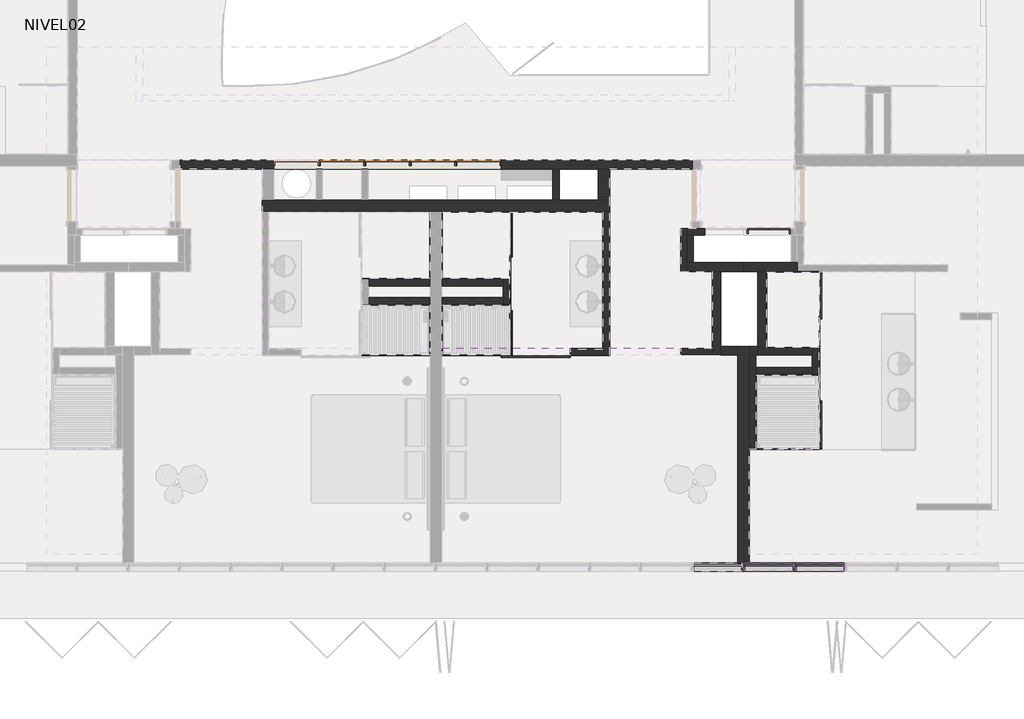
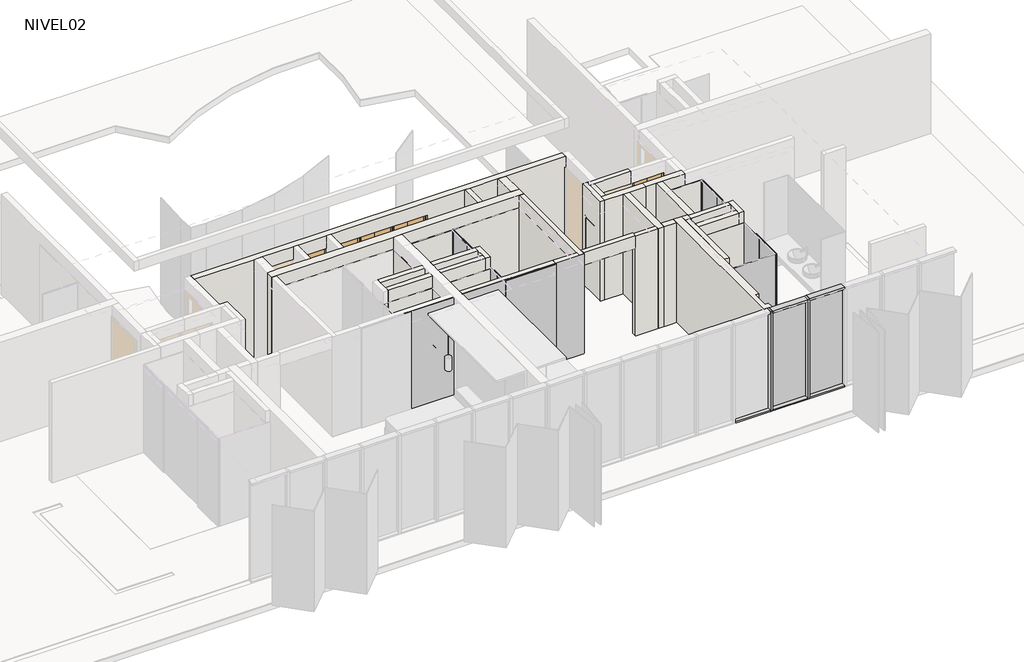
# One storey, part 3 of 9: 44 walls, 13 plates, 7 members, 5 doors.
"""IFC4 building model written with IfcOpenShell, lengths in millimetres."""

from ifc_helpers import new_model, si_unit, frame, origin, place, context, project, spatial, polyline, outline, extrude, faceted_brep, transform, mapped, element, save
from components import puerta_closet_shaft_75_x_232cm_f7ce9964, puerta_closet_shaft_80_x_232cm_003f94e8, rectangular_mullion_50_x_150mm_324a6438, rectangular_mullion_50_x_150mm_33c2bde1, panel_corredera_cr_panel_corredera_e3ae9a5b, panel_corredera_cr_panel_corredera_0bc1c699, panel_corredera_cr_panel_corredera_42e60b83, panel_corredera_cr_panel_corredera_7198288a, panel_corredera_cr_panel_corredera_8db39db7, system_panel_cr_shower_b944c943, system_panel_cr_shower_d400fda2, system_panel_cr_shower_ad642826, system_panel_cr_shower_33531463, system_panel_cr_shower_685ec66b, system_panel_cr_shower_d0c7b907, system_panel_glazed_6ccc6dc1

model = new_model("IFC4")

# Units and contexts
model_context = context("Model", 3, world=origin())
ifc_project = project(units=[si_unit("LENGTHUNIT", "METRE", prefix="MILLI")], contexts=[model_context])

# Site, building, storey
site = spatial("IfcSite", under=ifc_project)
building = spatial("IfcBuilding", under=site)
storey = spatial("IfcBuildingStorey", under=building, Name="NIVEL02", Elevation=2500.0)

# Doors
placement = place(None, origin())
puerta_closet_shaft_75_x_232cm_shape = puerta_closet_shaft_75_x_232cm_f7ce9964(model_context)
element("IfcDoor", 1, ObjectType="PUERTA CLOSET SHAFT : 75 x 232cm", at=placement, inside=storey, context=model_context, shape_type="MappedRepresentation", body=[
    mapped(puerta_closet_shaft_75_x_232cm_shape, transform((-2480.1250457, -1521.0860759, 2500.0), x_axis=(-1.0, 0.0, 0.0), y_axis=(0.0, -1.0, 0.0), z_axis=(0.0, 0.0, 1.0))),
])
puerta_closet_shaft_80_x_232cm_shape = puerta_closet_shaft_80_x_232cm_003f94e8(model_context)
element("IfcDoor", 2, ObjectType="PUERTA CLOSET SHAFT : 80 x 232cm", at=placement, inside=storey, context=model_context, shape_type="MappedRepresentation", body=[
    mapped(puerta_closet_shaft_80_x_232cm_shape, transform((-6892.061904, -341.0860759, 2500.0), x_axis=(1.0, 0.0, 0.0), y_axis=(0.0, 1.0, 0.0), z_axis=(0.0, 0.0, 1.0))),
])
element("IfcDoor", 3, ObjectType="PUERTA CLOSET SHAFT : 80 x 232cm", at=placement, inside=storey, context=model_context, shape_type="MappedRepresentation", body=[
    mapped(puerta_closet_shaft_80_x_232cm_shape, transform((-7692.061904, -341.0860759, 2500.0), x_axis=(1.0, 0.0, 0.0), y_axis=(0.0, 1.0, 0.0), z_axis=(0.0, 0.0, 1.0))),
])
element("IfcDoor", 4, ObjectType="PUERTA CLOSET SHAFT : 80 x 232cm", at=placement, inside=storey, context=model_context, shape_type="MappedRepresentation", body=[
    mapped(puerta_closet_shaft_80_x_232cm_shape, transform((-6092.061904, -341.0860759, 2500.0), x_axis=(1.0, 0.0, 0.0), y_axis=(0.0, 1.0, 0.0), z_axis=(0.0, 0.0, 1.0))),
])
element("IfcDoor", 5, ObjectType="PUERTA CLOSET SHAFT : 80 x 232cm", at=placement, inside=storey, context=model_context, shape_type="MappedRepresentation", body=[
    mapped(puerta_closet_shaft_80_x_232cm_shape, transform((-5292.061904, -341.0860759, 2500.0), x_axis=(1.0, 0.0, 0.0), y_axis=(0.0, 1.0, 0.0), z_axis=(0.0, 0.0, 1.0))),
])

# Members
rectangular_mullion_50_x_150mm_shape = rectangular_mullion_50_x_150mm_324a6438(model_context)
element("IfcMember", 6, ObjectType="Rectangular Mullion : 50 x 150mm", at=placement, inside=storey, context=model_context, shape_type="MappedRepresentation", body=[
    mapped(rectangular_mullion_50_x_150mm_shape, transform((-858.5934748, -7416.0860759, 5050.0), x_axis=(0.0, 0.0, 1.0), y_axis=(0.0, 1.0, 0.0), z_axis=(-1.0, 0.0, 0.0))),
])
element("IfcMember", 7, ObjectType="Rectangular Mullion : 50 x 150mm", at=placement, inside=storey, context=model_context, shape_type="MappedRepresentation", body=[
    mapped(rectangular_mullion_50_x_150mm_shape, transform((-1758.5934748, -7416.0860759, 5050.0), x_axis=(0.0, 0.0, 1.0), y_axis=(0.0, 1.0, 0.0), z_axis=(-1.0, 0.0, 0.0))),
])
element("IfcMember", 8, ObjectType="Rectangular Mullion : 50 x 150mm", at=placement, inside=storey, context=model_context, shape_type="MappedRepresentation", body=[
    mapped(rectangular_mullion_50_x_150mm_shape, transform((-8.5934748, -7416.0860759, 2480.0), x_axis=(0.0, 0.0, -1.0), y_axis=(0.0, 1.0, 0.0), z_axis=(1.0, 0.0, 0.0))),
])
element("IfcMember", 9, ObjectType="Rectangular Mullion : 50 x 150mm", at=placement, inside=storey, context=model_context, shape_type="MappedRepresentation", body=[
    mapped(rectangular_mullion_50_x_150mm_shape, transform((-908.5934748, -7416.0860759, 2480.0), x_axis=(0.0, 0.0, -1.0), y_axis=(0.0, 1.0, 0.0), z_axis=(1.0, 0.0, 0.0))),
])
element("IfcMember", 10, ObjectType="Rectangular Mullion : 50 x 150mm", at=placement, inside=storey, context=model_context, shape_type="MappedRepresentation", body=[
    mapped(rectangular_mullion_50_x_150mm_shape, transform((-1808.5934748, -7416.0860759, 2480.0), x_axis=(0.0, 0.0, -1.0), y_axis=(0.0, 1.0, 0.0), z_axis=(1.0, 0.0, 0.0))),
])
rectangular_mullion_50_x_150mm_2_shape = rectangular_mullion_50_x_150mm_33c2bde1(model_context)
element("IfcMember", 11, ObjectType="Rectangular Mullion : 50 x 150mm", at=placement, inside=storey, context=model_context, shape_type="MappedRepresentation", body=[
    mapped(rectangular_mullion_50_x_150mm_2_shape, transform((-883.5934748, -7416.0860759, 2480.0), x_axis=(-1.0, 0.0, 0.0), y_axis=(0.0, 1.0, 0.0), z_axis=(0.0, 0.0, -1.0))),
])
element("IfcMember", 12, ObjectType="Rectangular Mullion : 50 x 150mm", at=placement, inside=storey, context=model_context, shape_type="MappedRepresentation", body=[
    mapped(rectangular_mullion_50_x_150mm_2_shape, transform((-1783.5934748, -7416.0860759, 2480.0), x_axis=(-1.0, 0.0, 0.0), y_axis=(0.0, 1.0, 0.0), z_axis=(0.0, 0.0, -1.0))),
])

# Plates
panel_corredera_cr_panel_corredera_shape = panel_corredera_cr_panel_corredera_e3ae9a5b(model_context)
element("IfcPlate", 13, ObjectType="PANEL CORREDERA : CR_PANEL CORREDERA", at=placement, inside=storey, context=model_context, shape_type="MappedRepresentation", body=[
    mapped(panel_corredera_cr_panel_corredera_shape, transform((-453.5434748, -2560.8259695, 2500.0), x_axis=(0.0, -1.0, 0.0), y_axis=(1.0, 0.0, 0.0), z_axis=(0.0, 0.0, 1.0))),
])
panel_corredera_cr_panel_corredera_2_shape = panel_corredera_cr_panel_corredera_0bc1c699(model_context)
element("IfcPlate", 14, ObjectType="PANEL CORREDERA : CR_PANEL CORREDERA", at=placement, inside=storey, context=model_context, shape_type="MappedRepresentation", body=[
    mapped(panel_corredera_cr_panel_corredera_2_shape, transform((-5883.5921504, -3371.0862189, 2500.0), x_axis=(0.0, 1.0, 0.0), y_axis=(-1.0, 0.0, 0.0), z_axis=(0.0, 0.0, 1.0))),
])
panel_corredera_cr_panel_corredera_3_shape = panel_corredera_cr_panel_corredera_42e60b83(model_context)
element("IfcPlate", 15, ObjectType="PANEL CORREDERA : CR_PANEL CORREDERA", at=placement, inside=storey, context=model_context, shape_type="MappedRepresentation", body=[
    mapped(panel_corredera_cr_panel_corredera_3_shape, transform((-453.5434748, -4991.5697221, 2500.0), x_axis=(0.0, 1.0, 0.0), y_axis=(-1.0, 0.0, 0.0), z_axis=(0.0, 0.0, 1.0))),
])
panel_corredera_cr_panel_corredera_4_shape = panel_corredera_cr_panel_corredera_7198288a(model_context)
element("IfcPlate", 16, ObjectType="PANEL CORREDERA : CR_PANEL CORREDERA", at=placement, inside=storey, context=model_context, shape_type="MappedRepresentation", body=[
    mapped(panel_corredera_cr_panel_corredera_4_shape, transform((-5883.5921504, -1491.0860759, 2500.0), x_axis=(0.0, -1.0, 0.0), y_axis=(1.0, 0.0, 0.0), z_axis=(0.0, 0.0, 1.0))),
])
panel_corredera_cr_panel_corredera_5_shape = panel_corredera_cr_panel_corredera_8db39db7(model_context)
element("IfcPlate", 17, ObjectType="PANEL CORREDERA : CR_PANEL CORREDERA", at=placement, inside=storey, context=model_context, shape_type="MappedRepresentation", body=[
    mapped(panel_corredera_cr_panel_corredera_5_shape, transform((-5353.5934748, -3686.0862189, 2500.0), x_axis=(-1.0, 0.0, 0.0), y_axis=(0.0, -1.0, 0.0), z_axis=(0.0, 0.0, 1.0))),
])
system_panel_cr_shower_shape = system_panel_cr_shower_b944c943(model_context)
element("IfcPlate", 18, ObjectType="System Panel : CR-SHOWER", at=placement, inside=storey, context=model_context, shape_type="MappedRepresentation", body=[
    mapped(system_panel_cr_shower_shape, transform((-1068.5684748, -5336.1362189, 2500.0), x_axis=(1.0, 0.0, 0.0), y_axis=(0.0, 1.0, 0.0), z_axis=(0.0, 0.0, 1.0))),
])
system_panel_cr_shower_2_shape = system_panel_cr_shower_d400fda2(model_context)
element("IfcPlate", 19, ObjectType="System Panel : CR-SHOWER", at=placement, inside=storey, context=model_context, shape_type="MappedRepresentation", body=[
    mapped(system_panel_cr_shower_2_shape, transform((-4478.5934748, -3686.0862189, 2500.0), x_axis=(1.0, 0.0, 0.0), y_axis=(0.0, 1.0, 0.0), z_axis=(0.0, 0.0, 1.0))),
])
system_panel_cr_shower_3_shape = system_panel_cr_shower_ad642826(model_context)
element("IfcPlate", 20, ObjectType="System Panel : CR-SHOWER", at=placement, inside=storey, context=model_context, shape_type="MappedRepresentation", body=[
    mapped(system_panel_cr_shower_3_shape, transform((-453.5434748, -3776.2845441, 2500.0), x_axis=(0.0, 1.0, 0.0), y_axis=(-1.0, 0.0, 0.0), z_axis=(0.0, 0.0, 1.0))),
])
system_panel_cr_shower_4_shape = system_panel_cr_shower_33531463(model_context)
element("IfcPlate", 21, ObjectType="System Panel : CR-SHOWER", at=placement, inside=storey, context=model_context, shape_type="MappedRepresentation", body=[
    mapped(system_panel_cr_shower_4_shape, transform((-5883.5921504, -2436.0861474, 2500.0), x_axis=(0.0, 1.0, 0.0), y_axis=(-1.0, 0.0, 0.0), z_axis=(0.0, 0.0, 1.0))),
])
system_panel_cr_shower_5_shape = system_panel_cr_shower_685ec66b(model_context)
element("IfcPlate", 22, ObjectType="System Panel : CR-SHOWER", at=placement, inside=storey, context=model_context, shape_type="MappedRepresentation", body=[
    mapped(system_panel_cr_shower_5_shape, transform((-6483.5934748, -3686.0862189, 2500.0), x_axis=(1.0, 0.0, 0.0), y_axis=(0.0, 1.0, 0.0), z_axis=(0.0, 0.0, 1.0))),
])
system_panel_cr_shower_6_shape = system_panel_cr_shower_d0c7b907(model_context)
element("IfcPlate", 23, ObjectType="System Panel : CR-SHOWER", at=placement, inside=storey, context=model_context, shape_type="MappedRepresentation", body=[
    mapped(system_panel_cr_shower_6_shape, transform((-7883.5934748, -3686.0862189, 2500.0), x_axis=(-1.0, 0.0, 0.0), y_axis=(0.0, -1.0, 0.0), z_axis=(0.0, 0.0, 1.0))),
])
system_panel_glazed_shape = system_panel_glazed_6ccc6dc1(model_context)
element("IfcPlate", 24, ObjectType="System Panel : Glazed", at=placement, inside=storey, context=model_context, shape_type="MappedRepresentation", body=[
    mapped(system_panel_glazed_shape, transform((-433.5934748, -7416.0860759, 2530.0), x_axis=(-1.0, 0.0, 0.0), y_axis=(0.0, -1.0, 0.0), z_axis=(0.0, 0.0, 1.0))),
])
element("IfcPlate", 25, ObjectType="System Panel : Glazed", at=placement, inside=storey, context=model_context, shape_type="MappedRepresentation", body=[
    mapped(system_panel_glazed_shape, transform((-1333.5934748, -7416.0860759, 2530.0), x_axis=(-1.0, 0.0, 0.0), y_axis=(0.0, -1.0, 0.0), z_axis=(0.0, 0.0, 1.0))),
])

# Walls
element("IfcWall", 26, ObjectType="SCV.TI.A.110.090.143.47.1", at=placement, inside=storey, context=model_context, shape_type="SweptSolid", body=[
    extrude(outline(polyline([(-2333.5934748, -3681.0862189), (-2883.5934748, -3681.0862189), (-2883.5934748, -3571.0862189), (-2333.5934748, -3571.0862189), (-2333.5934748, -3681.0862189)])), frame((0.0, 0.0, 2500.0), z_axis=(0.0, 0.0, 1.0), x_axis=(1.0, 0.0, 0.0)), (0.0, 0.0, 1.0), 2550.0),
])
element("IfcWall", 27, ObjectType="SCV.TI.A.110.090.143.47.1", at=placement, inside=storey, context=model_context, shape_type="Brep", body=[
    faceted_brep([(-1778.029983, -1576.0860759, 5050.0), (-2663.5934748, -1576.0860759, 5050.0), (-2773.5934748, -1576.0860759, 5050.0), (-2773.5934748, -1576.0860759, 2500.0), (-2463.5934748, -1576.0860759, 2500.0), (-2463.5934748, -1576.0860759, 4740.0), (-1778.029983, -1576.0860759, 4740.0), (-2773.5934748, -1466.0860759, 5050.0), (-2683.5934748, -1466.0860759, 5050.0), (-2533.5934748, -1466.0860759, 5050.0), (-1778.029983, -1466.0860759, 5050.0), (-1778.029983, -1466.0860759, 4740.0), (-2463.5934748, -1466.0860759, 4740.0), (-2463.5934748, -1466.0860759, 2500.0), (-2533.5934748, -1466.0860759, 2500.0), (-2683.5934748, -1466.0860759, 2500.0), (-2773.5934748, -1466.0860759, 2500.0)], [[[0, 1, 2, 3, 4, 5, 6]], [[7, 8, 9, 10, 11, 12, 13, 14, 15, 16]], [[3, 16, 15, 14, 13, 4]], [[10, 0, 6, 11]], [[2, 1, 0, 10, 9, 8, 7]], [[5, 12, 11, 6]], [[12, 5, 4, 13]], [[3, 2, 7, 16]]]),
])
element("IfcWall", 28, ObjectType="SCV.TI.A.110.090.143.47.1", at=placement, inside=storey, context=model_context, shape_type="Brep", body=[
    faceted_brep([(-4243.5934748, -1166.0860759, 2480.0), (-4243.5934748, -3686.0862189, 2480.0), (-4243.5934748, -3686.0862189, 2500.0), (-4243.5934748, -3686.0862189, 5050.0), (-4243.5934748, -3576.0862189, 5050.0), (-4243.5934748, -1166.0860759, 5050.0), (-4133.5934748, -1166.0860759, 2480.0), (-4133.5934748, -1166.0860759, 5050.0), (-4133.5934748, -3686.0862189, 5050.0), (-4133.5934748, -3686.0862189, 4750.0), (-4133.5934748, -3686.0862189, 2480.0)], [[[0, 1, 2, 3, 4, 5]], [[6, 7, 8, 9, 10]], [[1, 0, 6, 10]], [[5, 4, 3, 8, 7]], [[1, 10, 9, 8, 3, 2]], [[0, 5, 7, 6]]]),
])
element("IfcWall", 29, ObjectType="SCV.TI.A.150.120.212.47.1", at=placement, inside=storey, context=model_context, shape_type="Brep", body=[
    faceted_brep([(-11683.5934748, -416.0860759, 2480.0), (-10233.5934748, -416.0860759, 2480.0), (-10033.5934748, -416.0860759, 2480.0), (-9283.5934748, -416.0860759, 2480.0), (-9173.5934748, -416.0860759, 2480.0), (-8483.5934748, -416.0860759, 2480.0), (-8373.5934748, -416.0860759, 2480.0), (-5133.5934748, -416.0860759, 2480.0), (-5013.5934748, -416.0860759, 2480.0), (-4333.5934748, -416.0860759, 2480.0), (-4133.5934748, -416.0860759, 2480.0), (-2683.5934748, -416.0860759, 2480.0), (-2683.5934748, -416.0860759, 5050.0), (-4133.5934748, -416.0860759, 5050.0), (-4333.5934748, -416.0860759, 5050.0), (-5013.5934748, -416.0860759, 5050.0), (-5133.5934748, -416.0860759, 5050.0), (-8373.5934748, -416.0860759, 5050.0), (-8483.5934748, -416.0860759, 5050.0), (-9173.5934748, -416.0860759, 5050.0), (-9283.5934748, -416.0860759, 5050.0), (-10033.5934748, -416.0860759, 5050.0), (-10233.5934748, -416.0860759, 5050.0), (-11683.5934748, -416.0860759, 5050.0), (-10033.5934748, -416.0860759, 4720.0), (-6033.5934748, -416.0860759, 4720.0), (-6033.5934748, -416.0860759, 2500.0), (-10033.5934748, -416.0860759, 2500.0), (-2683.5934748, -266.0860759, 2480.0), (-11683.5934748, -266.0860759, 2480.0), (-11683.5934748, -266.0860759, 2500.0), (-11683.5934748, -266.0860759, 5050.0), (-2683.5934748, -266.0860759, 5050.0), (-2683.5934748, -266.0860759, 2500.0), (-6033.5934748, -266.0860759, 4720.0), (-10033.5934748, -266.0860759, 4720.0), (-10033.5934748, -266.0860759, 2500.0), (-6033.5934748, -266.0860759, 2500.0)], [[[0, 1, 2, 3, 4, 5, 6, 7, 8, 9, 10, 11, 12, 13, 14, 15, 16, 17, 18, 19, 20, 21, 22, 23], [24, 25, 26, 27]], [[28, 29, 30, 31, 32, 33], [34, 35, 36, 37]], [[11, 10, 9, 8, 7, 6, 5, 4, 3, 2, 1, 0, 29, 28]], [[23, 22, 21, 20, 19, 18, 17, 16, 15, 14, 13, 12, 32, 31]], [[24, 35, 34, 25]], [[26, 37, 36, 27]], [[27, 36, 35, 24]], [[37, 26, 25, 34]], [[0, 23, 31, 30, 29]], [[12, 11, 28, 33, 32]]]),
])
element("IfcWall", 30, ObjectType="SCV.TI.A.150.120.212.47.1", at=placement, inside=storey, context=model_context, shape_type="Brep", body=[
    faceted_brep([(-2773.5934748, -2216.0860759, 2500.0), (-2333.5934748, -2216.0860759, 2500.0), (-2183.5934748, -2216.0860759, 2500.0), (-1783.5934748, -2216.0860759, 2500.0), (-1783.5934748, -2216.0860759, 5050.0), (-2183.5934748, -2216.0860759, 5050.0), (-2333.5934748, -2216.0860759, 5050.0), (-2773.5934748, -2216.0860759, 5050.0), (-2773.5934748, -2066.0860759, 2500.0), (-2773.5934748, -2066.0860759, 5050.0), (-2663.5934748, -2066.0860759, 5050.0), (-1783.5934748, -2066.0860759, 5050.0), (-1783.5934748, -2066.0860759, 2500.0)], [[[0, 1, 2, 3, 4, 5, 6, 7]], [[8, 9, 10, 11, 12]], [[3, 2, 1, 0, 8, 12]], [[4, 3, 12, 11]], [[7, 6, 5, 4, 11, 10, 9]], [[0, 7, 9, 8]]]),
])
element("IfcWall", 31, ObjectType="SCV.TI.A.110.090.143.47.1", at=placement, inside=storey, context=model_context, shape_type="Brep", body=[
    faceted_brep([(-2883.5934748, -1466.0860759, 2480.0), (-2883.5934748, -2216.0860759, 2480.0), (-2883.5934748, -2216.0860759, 5050.0), (-2883.5934748, -1466.0860759, 5050.0), (-2773.5934748, -1466.0860759, 2480.0), (-2773.5934748, -1466.0860759, 2500.0), (-2773.5934748, -1466.0860759, 5050.0), (-2773.5934748, -1576.0860759, 5050.0), (-2773.5934748, -2066.0860759, 5050.0), (-2773.5934748, -2216.0860759, 5050.0), (-2773.5934748, -2216.0860759, 2500.0), (-2773.5934748, -2216.0860759, 2480.0)], [[[0, 1, 2, 3]], [[4, 5, 6, 7, 8, 9, 10, 11]], [[1, 0, 4, 11]], [[3, 2, 9, 8, 7, 6]], [[2, 1, 11, 10, 9]], [[0, 3, 6, 5, 4]]]),
])
element("IfcWall", 32, ObjectType="SCV.TI.A.120.120.122.46.2", at=placement, inside=storey, context=model_context, shape_type="SweptSolid", body=[
    extrude(outline(polyline([(-6003.6822103, -2796.0860759), (-7083.5934748, -2796.0860759), (-7083.5934748, -2676.0860759), (-6003.6822103, -2676.0860759), (-6003.6822103, -2796.0860759)])), frame((0.0, 0.0, 2500.0), z_axis=(0.0, 0.0, 1.0), x_axis=(1.0, 0.0, 0.0)), (0.0, 0.0, 1.0), 2550.0),
])
element("IfcWall", 33, ObjectType="SCV.TI.A.120.120.122.46.2", at=placement, inside=storey, context=model_context, shape_type="Brep", body=[
    faceted_brep([(-5883.6822103, -2796.0860759, 2500.0), (-5883.6822103, -2356.0860759, 2500.0), (-5883.6822103, -2356.0860759, 5050.0), (-5883.6822103, -2796.0860759, 5050.0), (-6003.6822103, -2796.0860759, 2500.0), (-6003.6822103, -2796.0860759, 5050.0), (-6003.6822103, -2676.0860759, 5050.0), (-6003.6822103, -2476.0860759, 5050.0), (-6003.6822103, -2356.0860759, 5050.0), (-6003.6822103, -2356.0860759, 2500.0), (-6003.6822103, -2476.0860759, 2500.0), (-6003.6822103, -2676.0860759, 2500.0)], [[[0, 1, 2, 3]], [[4, 5, 6, 7, 8, 9, 10, 11]], [[1, 0, 4, 11, 10, 9]], [[3, 2, 8, 7, 6, 5]], [[2, 1, 9, 8]], [[0, 3, 5, 4]]]),
])
element("IfcWall", 34, ObjectType="SCV.TI.A.120.120.122.46.2", at=placement, inside=storey, context=model_context, shape_type="SweptSolid", body=[
    extrude(outline(polyline([(-7083.5934748, -2356.0860759), (-6003.6822103, -2356.0860759), (-6003.6822103, -2476.0860759), (-7083.5934748, -2476.0860759), (-7083.5934748, -2356.0860759)])), frame((0.0, 0.0, 2500.0), z_axis=(0.0, 0.0, 1.0), x_axis=(1.0, 0.0, 0.0)), (0.0, 0.0, 1.0), 2550.0),
])
element("IfcWall", 35, ObjectType="SCV.TI.A.120.120.122.46.2", at=placement, inside=storey, context=model_context, shape_type="SweptSolid", body=[
    extrude(outline(polyline([(-573.5934748, -4026.0862189), (-1563.5934748, -4026.0862189), (-1563.5934748, -3906.0862189), (-573.5934748, -3906.0862189), (-573.5934748, -4026.0862189)])), frame((0.0, 0.0, 2480.0), z_axis=(0.0, 0.0, 1.0), x_axis=(1.0, 0.0, 0.0)), (0.0, 0.0, 1.0), 2570.0),
])
element("IfcWall", 36, ObjectType="SCV.TI.A.120.120.122.46.2", at=placement, inside=storey, context=model_context, shape_type="Brep", body=[
    faceted_brep([(-453.5934748, -4026.0862189, 2480.0), (-453.5934748, -3566.0862189, 2480.0), (-453.5934748, -3566.0862189, 5050.0), (-453.5934748, -4026.0862189, 5050.0), (-573.5934748, -4026.0862189, 2480.0), (-573.5934748, -4026.0862189, 5050.0), (-573.5934748, -3906.0862189, 5050.0), (-573.5934748, -3686.0862189, 5050.0), (-573.5934748, -3566.0862189, 5050.0), (-573.5934748, -3566.0862189, 2480.0), (-573.5934748, -3686.0862189, 2480.0), (-573.5934748, -3906.0862189, 2480.0)], [[[0, 1, 2, 3]], [[4, 5, 6, 7, 8, 9, 10, 11]], [[1, 0, 4, 11, 10, 9]], [[3, 2, 8, 7, 6, 5]], [[2, 1, 9, 8]], [[0, 3, 5, 4]]]),
])
element("IfcWall", 37, ObjectType="SCV.TI.A.120.120.122.46.2", at=placement, inside=storey, context=model_context, shape_type="Brep", body=[
    faceted_brep([(-573.5934748, -3566.0862189, 2480.0), (-1383.5934748, -3566.0862189, 2480.0), (-1533.5934748, -3566.0862189, 2480.0), (-1533.5934748, -3566.0862189, 5050.0), (-1383.5934748, -3566.0862189, 5050.0), (-573.5934748, -3566.0862189, 5050.0), (-573.5934748, -3686.0862189, 2480.0), (-573.5934748, -3686.0862189, 5050.0), (-1533.5934748, -3686.0862189, 5050.0), (-1533.5934748, -3686.0862189, 2480.0)], [[[0, 1, 2, 3, 4, 5]], [[6, 7, 8, 9]], [[2, 1, 0, 6, 9]], [[5, 4, 3, 8, 7]], [[0, 5, 7, 6]], [[3, 2, 9, 8]]]),
])
element("IfcWall", 38, ObjectType="SCV.TI.A.150.120.212.47.1", at=placement, inside=storey, context=model_context, shape_type="Brep", body=[
    faceted_brep([(-833.5934748, -2066.0860759, 2480.0), (-943.5934748, -2066.0860759, 2480.0), (-1783.5934748, -2066.0860759, 2480.0), (-1783.5934748, -2066.0860759, 5050.0), (-943.5934748, -2066.0860759, 5050.0), (-833.5934748, -2066.0860759, 5050.0), (-833.5934748, -2216.0860759, 2480.0), (-833.5934748, -2216.0860759, 5050.0), (-1383.5934748, -2216.0860759, 5050.0), (-1533.5934748, -2216.0860759, 5050.0), (-1783.5934748, -2216.0860759, 5050.0), (-1783.5934748, -2216.0860759, 2480.0), (-1533.5934748, -2216.0860759, 2480.0), (-1383.5934748, -2216.0860759, 2480.0), (-833.5934748, -2106.0860759, 2480.0), (-833.5934748, -2106.0860759, 5050.0)], [[[0, 1, 2, 3, 4, 5]], [[6, 7, 8, 9, 10, 11, 12, 13]], [[2, 1, 0, 14, 6, 13, 12, 11]], [[3, 2, 11, 10]], [[5, 4, 3, 10, 9, 8, 7, 15]], [[0, 5, 15, 7, 6, 14]]]),
])
element("IfcWall", 39, ObjectType="SCV.TI.A.110.090.143.47.1", at=placement, inside=storey, context=model_context, shape_type="Brep", body=[
    faceted_brep([(-4823.5934748, -3686.0862189, 2500.0), (-4243.5934748, -3686.0862189, 2500.0), (-4243.5934748, -3686.0862189, 5050.0), (-4823.5934748, -3686.0862189, 5050.0), (-4823.5934748, -3686.0862189, 4805.0), (-4823.5934748, -3576.0862189, 2500.0), (-4823.5934748, -3576.0862189, 5050.0), (-4243.5934748, -3576.0862189, 5050.0), (-4243.5934748, -3576.0862189, 2500.0)], [[[0, 1, 2, 3, 4]], [[5, 6, 7, 8]], [[1, 0, 5, 8]], [[3, 2, 7, 6]], [[0, 4, 3, 6, 5]], [[1, 8, 7, 2]]]),
])
element("IfcWall", 40, ObjectType="REV-PORCELANATO_60*60", at=placement, inside=storey, context=model_context, shape_type="Brep", body=[
    faceted_brep([(-4823.5934748, -3596.0862189, 2500.0), (-4243.5934748, -3596.0862189, 2500.0), (-4243.5934748, -3596.0862189, 4740.0), (-4823.5934748, -3596.0862189, 4740.0), (-4823.5934748, -3586.0862189, 2500.0), (-4823.5934748, -3586.0862189, 4740.0), (-4253.5934748, -3586.0862189, 4740.0), (-4243.5934748, -3586.0862189, 4740.0), (-4243.5934748, -3586.0862189, 2500.0), (-4253.5934748, -3586.0862189, 2500.0)], [[[0, 1, 2, 3]], [[4, 5, 6, 7, 8, 9]], [[1, 0, 4, 9, 8]], [[3, 2, 7, 6, 5]], [[0, 3, 5, 4]], [[2, 1, 8, 7]]]),
])
element("IfcWall", 41, ObjectType="REV-PORCELANATO_60*60", at=placement, inside=storey, context=model_context, shape_type="Brep", body=[
    faceted_brep([(-4243.5934748, -3586.0862189, 2500.0), (-4243.5934748, -1166.0860759, 2500.0), (-4243.5934748, -1166.0860759, 4740.0), (-4243.5934748, -3586.0862189, 4740.0), (-4253.5934748, -3586.0862189, 2500.0), (-4253.5934748, -3586.0862189, 4740.0), (-4253.5934748, -1176.0860759, 4740.0), (-4253.5934748, -1166.0860759, 4740.0), (-4253.5934748, -1166.0860759, 2500.0), (-4253.5934748, -1176.0860759, 2500.0)], [[[0, 1, 2, 3]], [[4, 5, 6, 7, 8, 9]], [[1, 0, 4, 9, 8]], [[3, 2, 7, 6, 5]], [[2, 1, 8, 7]], [[0, 3, 5, 4]]]),
])
element("IfcWall", 42, ObjectType="REV-PORCELANATO_60*60", at=placement, inside=storey, context=model_context, shape_type="Brep", body=[
    faceted_brep([(-4253.5934748, -1166.0860759, 2500.0), (-7083.5934748, -1166.0860759, 2500.0), (-7083.5934748, -1166.0860759, 4740.0), (-4253.5934748, -1166.0860759, 4740.0), (-4253.5934748, -1176.0860759, 2500.0), (-4253.5934748, -1176.0860759, 4740.0), (-7073.5934748, -1176.0860759, 4740.0), (-7083.5934748, -1176.0860759, 4740.0), (-7083.5934748, -1176.0860759, 2500.0), (-7073.5934748, -1176.0860759, 2500.0)], [[[0, 1, 2, 3]], [[4, 5, 6, 7, 8, 9]], [[1, 0, 4, 9, 8]], [[3, 2, 7, 6, 5]], [[2, 1, 8, 7]], [[0, 3, 5, 4]]]),
])
element("IfcWall", 43, ObjectType="REV-PORCELANATO_60*60", at=placement, inside=storey, context=model_context, shape_type="Brep", body=[
    faceted_brep([(-7083.5934748, -1176.0860759, 2500.0), (-7083.5934748, -2356.0860759, 2500.0), (-7083.5934748, -2356.0860759, 4740.0), (-7083.5934748, -1176.0860759, 4740.0), (-7073.5934748, -1176.0860759, 2500.0), (-7073.5934748, -1176.0860759, 4740.0), (-7073.5934748, -2346.0860759, 4740.0), (-7073.5934748, -2356.0860759, 4740.0), (-7073.5934748, -2356.0860759, 2500.0), (-7073.5934748, -2346.0860759, 2500.0)], [[[0, 1, 2, 3]], [[4, 5, 6, 7, 8, 9]], [[1, 0, 4, 9, 8]], [[3, 2, 7, 6, 5]], [[2, 1, 8, 7]], [[0, 3, 5, 4]]]),
])
element("IfcWall", 44, ObjectType="REV-PORCELANATO_60*60", at=placement, inside=storey, context=model_context, shape_type="SweptSolid", body=[
    extrude(outline(polyline([(-5883.5921504, -2356.0860759), (-7073.5934748, -2356.0860759), (-7073.5934748, -2346.0860759), (-5883.5921504, -2346.0860759), (-5883.5921504, -2356.0860759)])), frame((0.0, 0.0, 2500.0), z_axis=(0.0, 0.0, 1.0), x_axis=(1.0, 0.0, 0.0)), (0.0, 0.0, 1.0), 2240.0),
])
element("IfcWall", 45, ObjectType="REV-PORCELANATO_60*60", at=placement, inside=storey, context=model_context, shape_type="Brep", body=[
    faceted_brep([(-5883.5921504, -2796.0860759, 2500.0), (-7083.5934748, -2796.0860759, 2500.0), (-7083.5934748, -2796.0860759, 4740.0), (-5883.5921504, -2796.0860759, 4740.0), (-5883.5921504, -2806.0860759, 2500.0), (-5883.5921504, -2806.0860759, 4740.0), (-7073.5934748, -2806.0860759, 4740.0), (-7083.5934748, -2806.0860759, 4740.0), (-7083.5934748, -2806.0860759, 2500.0), (-7073.5934748, -2806.0860759, 2500.0)], [[[0, 1, 2, 3]], [[4, 5, 6, 7, 8, 9]], [[1, 0, 4, 9, 8]], [[3, 2, 7, 6, 5]], [[0, 3, 5, 4]], [[2, 1, 8, 7]]]),
])
element("IfcWall", 46, ObjectType="REV-PORCELANATO_60*60", at=placement, inside=storey, context=model_context, shape_type="SweptSolid", body=[
    extrude(outline(polyline([(-7083.5934748, -3686.0862189), (-7083.5934748, -2806.0860759), (-7073.5934748, -2806.0860759), (-7073.5934748, -3686.0862189), (-7083.5934748, -3686.0862189)])), frame((0.0, 0.0, 2500.0), z_axis=(0.0, 0.0, 1.0), x_axis=(1.0, 0.0, 0.0)), (0.0, 0.0, 1.0), 2240.0),
])
element("IfcWall", 47, ObjectType="SCV.TI.A.120.120.122.46.2", at=placement, inside=storey, context=model_context, shape_type="SweptSolid", body=[
    extrude(outline(polyline([(-8363.5047394, -2676.0860759), (-7283.5934748, -2676.0860759), (-7283.5934748, -2796.0860759), (-8363.5047394, -2796.0860759), (-8363.5047394, -2676.0860759)])), frame((0.0, 0.0, 2500.0), z_axis=(0.0, 0.0, 1.0), x_axis=(1.0, 0.0, 0.0)), (0.0, 0.0, 1.0), 2550.0),
])
element("IfcWall", 48, ObjectType="SCV.TI.A.120.120.122.46.2", at=placement, inside=storey, context=model_context, shape_type="SweptSolid", body=[
    extrude(outline(polyline([(-7283.5934748, -2476.0860759), (-8363.5047394, -2476.0860759), (-8363.5047394, -2356.0860759), (-7283.5934748, -2356.0860759), (-7283.5934748, -2476.0860759)])), frame((0.0, 0.0, 2500.0), z_axis=(0.0, 0.0, 1.0), x_axis=(1.0, 0.0, 0.0)), (0.0, 0.0, 1.0), 2550.0),
])
element("IfcWall", 49, ObjectType="REV-PORCELANATO_60*60", at=placement, inside=storey, context=model_context, shape_type="Brep", body=[
    faceted_brep([(-7293.5934748, -1176.0860759, 2500.0), (-7293.5934748, -2346.0860759, 2500.0), (-7293.5934748, -2356.0860759, 2500.0), (-7293.5934748, -2356.0860759, 4740.0), (-7293.5934748, -2346.0860759, 4740.0), (-7293.5934748, -1176.0860759, 4740.0), (-7283.5934748, -1176.0860759, 2500.0), (-7283.5934748, -1176.0860759, 4740.0), (-7283.5934748, -2356.0860759, 4740.0), (-7283.5934748, -2356.0860759, 2500.0)], [[[0, 1, 2, 3, 4, 5]], [[6, 7, 8, 9]], [[2, 1, 0, 6, 9]], [[5, 4, 3, 8, 7]], [[3, 2, 9, 8]], [[0, 5, 7, 6]]]),
])
element("IfcWall", 50, ObjectType="REV-PORCELANATO_60*60", at=placement, inside=storey, context=model_context, shape_type="SweptSolid", body=[
    extrude(outline(polyline([(-8483.5947993, -2346.0860759), (-7293.5934748, -2346.0860759), (-7293.5934748, -2356.0860759), (-8483.5947993, -2356.0860759), (-8483.5947993, -2346.0860759)])), frame((0.0, 0.0, 2500.0), z_axis=(0.0, 0.0, 1.0), x_axis=(1.0, 0.0, 0.0)), (0.0, 0.0, 1.0), 2240.0),
])
element("IfcWall", 51, ObjectType="REV-PORCELANATO_60*60", at=placement, inside=storey, context=model_context, shape_type="Brep", body=[
    faceted_brep([(-8483.5947993, -2806.0860759, 2500.0), (-7293.5934748, -2806.0860759, 2500.0), (-7283.5934748, -2806.0860759, 2500.0), (-7283.5934748, -2806.0860759, 4740.0), (-7293.5934748, -2806.0860759, 4740.0), (-8483.5947993, -2806.0860759, 4740.0), (-8483.5947993, -2796.0860759, 2500.0), (-8483.5947993, -2796.0860759, 4740.0), (-7283.5934748, -2796.0860759, 4740.0), (-7283.5934748, -2796.0860759, 2500.0)], [[[0, 1, 2, 3, 4, 5]], [[6, 7, 8, 9]], [[2, 1, 0, 6, 9]], [[5, 4, 3, 8, 7]], [[0, 5, 7, 6]], [[3, 2, 9, 8]]]),
])
element("IfcWall", 52, ObjectType="REV-PORCELANATO_60*60", at=placement, inside=storey, context=model_context, shape_type="SweptSolid", body=[
    extrude(outline(polyline([(-7293.5934748, -3686.0862189), (-7293.5934748, -2806.0860759), (-7283.5934748, -2806.0860759), (-7283.5934748, -3686.0862189), (-7293.5934748, -3686.0862189)])), frame((0.0, 0.0, 2500.0), z_axis=(0.0, 0.0, 1.0), x_axis=(1.0, 0.0, 0.0)), (0.0, 0.0, 1.0), 2240.0),
])
element("IfcWall", 53, ObjectType="REV-PORCELANATO_60*60", at=placement, inside=storey, context=model_context, shape_type="Brep", body=[
    faceted_brep([(-1553.5934748, -5336.1362189, 2500.0), (-1553.5934748, -4036.0862189, 2500.0), (-1553.5934748, -4026.0862189, 2500.0), (-1553.5934748, -4026.0862189, 4760.0), (-1553.5934748, -4036.0862189, 4760.0), (-1553.5934748, -5336.1362189, 4760.0), (-1563.5934748, -5336.1362189, 2500.0), (-1563.5934748, -5336.1362189, 4760.0), (-1563.5934748, -4026.0862189, 4760.0), (-1563.5934748, -4026.0862189, 2500.0)], [[[0, 1, 2, 3, 4, 5]], [[6, 7, 8, 9]], [[2, 1, 0, 6, 9]], [[5, 4, 3, 8, 7]], [[0, 5, 7, 6]], [[3, 2, 9, 8]]]),
])
element("IfcWall", 54, ObjectType="REV-PORCELANATO_60*60", at=placement, inside=storey, context=model_context, shape_type="SweptSolid", body=[
    extrude(outline(polyline([(-453.5434748, -4036.0862189), (-1553.5934748, -4036.0862189), (-1553.5934748, -4026.0862189), (-453.5434748, -4026.0862189), (-453.5434748, -4036.0862189)])), frame((0.0, 0.0, 2500.0), z_axis=(0.0, 0.0, 1.0), x_axis=(1.0, 0.0, 0.0)), (0.0, 0.0, 1.0), 2260.0),
])
element("IfcWall", 55, ObjectType="REV-PORCELANATO_60*60", at=placement, inside=storey, context=model_context, shape_type="Brep", body=[
    faceted_brep([(-453.5434748, -3556.0862189, 2500.0), (-1373.5934748, -3556.0862189, 2500.0), (-1383.5934748, -3556.0862189, 2500.0), (-1383.5934748, -3556.0862189, 4760.0), (-1373.5934748, -3556.0862189, 4760.0), (-453.5434748, -3556.0862189, 4760.0), (-453.5434748, -3566.0862189, 2500.0), (-453.5434748, -3566.0862189, 4760.0), (-1383.5934748, -3566.0862189, 4760.0), (-1383.5934748, -3566.0862189, 2500.0)], [[[0, 1, 2, 3, 4, 5]], [[6, 7, 8, 9]], [[2, 1, 0, 6, 9]], [[5, 4, 3, 8, 7]], [[0, 5, 7, 6]], [[3, 2, 9, 8]]]),
])
element("IfcWall", 56, ObjectType="REV-PORCELANATO_60*60", at=placement, inside=storey, context=model_context, shape_type="SweptSolid", body=[
    extrude(outline(polyline([(-453.5434748, -2226.0860759), (-1373.5934748, -2226.0860759), (-1373.5934748, -2216.0860759), (-453.5434748, -2216.0860759), (-453.5434748, -2226.0860759)])), frame((0.0, 0.0, 2500.0), z_axis=(0.0, 0.0, 1.0), x_axis=(1.0, 0.0, 0.0)), (0.0, 0.0, 1.0), 2260.0),
])
element("IfcWall", 57, ObjectType="REV-PORCELANATO_60*60", at=placement, inside=storey, context=model_context, shape_type="Brep", body=[
    faceted_brep([(-1373.5934748, -3556.0862189, 2500.0), (-1373.5934748, -2226.0860759, 2500.0), (-1373.5934748, -2216.0860759, 2500.0), (-1373.5934748, -2216.0860759, 4760.0), (-1373.5934748, -2226.0860759, 4760.0), (-1373.5934748, -3556.0862189, 4760.0), (-1383.5934748, -3556.0862189, 2500.0), (-1383.5934748, -3556.0862189, 4760.0), (-1383.5934748, -2216.0860759, 4760.0), (-1383.5934748, -2216.0860759, 2500.0)], [[[0, 1, 2, 3, 4, 5]], [[6, 7, 8, 9]], [[2, 1, 0, 6, 9]], [[5, 4, 3, 8, 7]], [[3, 2, 9, 8]], [[0, 5, 7, 6]]]),
])
element("IfcWall", 58, ObjectType="SCV.TI.A.110.090.143.47.1", at=placement, inside=storey, context=model_context, shape_type="Brep", body=[
    faceted_brep([(-2773.5934748, -1576.0860759, 2480.0), (-2773.5934748, -2066.0860759, 2480.0), (-2773.5934748, -2066.0860759, 2500.0), (-2773.5934748, -2066.0860759, 5050.0), (-2773.5934748, -1576.0860759, 5050.0), (-2773.5934748, -1576.0860759, 2500.0), (-2663.5934748, -1576.0860759, 2480.0), (-2663.5934748, -1576.0860759, 5050.0), (-2663.5934748, -2066.0860759, 5050.0), (-2663.5934748, -2066.0860759, 2480.0)], [[[0, 1, 2, 3, 4, 5]], [[6, 7, 8, 9]], [[1, 0, 6, 9]], [[3, 2, 1, 9, 8]], [[4, 3, 8, 7]], [[0, 5, 4, 7, 6]]]),
])
element("IfcWall", 59, ObjectType="SCV.TI.A.150.120.212.47.1", at=placement, inside=storey, context=model_context, shape_type="Brep", body=[
    faceted_brep([(-1383.5934748, -3566.0862189, 2480.0), (-1383.5934748, -2216.0860759, 2480.0), (-1383.5934748, -2216.0860759, 5050.0), (-1383.5934748, -3566.0862189, 5050.0), (-1533.5934748, -3566.0862189, 2480.0), (-1533.5934748, -3566.0862189, 5050.0), (-1533.5934748, -3536.0862189, 5050.0), (-1533.5934748, -2216.0860759, 5050.0), (-1533.5934748, -2216.0860759, 2480.0), (-1533.5934748, -3536.0862189, 2480.0)], [[[0, 1, 2, 3]], [[4, 5, 6, 7, 8, 9]], [[1, 0, 4, 9, 8]], [[3, 2, 7, 6, 5]], [[2, 1, 8, 7]], [[0, 3, 5, 4]]]),
])
element("IfcWall", 60, ObjectType="SCV.TI.A.120.120.122.46.2", at=placement, inside=storey, context=model_context, shape_type="Brep", body=[
    faceted_brep([(-1683.5934748, -3686.0862189, 2480.0), (-1683.5934748, -5336.1362189, 2480.0), (-1683.5934748, -5336.1362189, 5050.0), (-1683.5934748, -3686.0862189, 5050.0), (-1563.5934748, -3686.0862189, 2480.0), (-1563.5934748, -3686.0862189, 5050.0), (-1563.5934748, -3906.0862189, 5050.0), (-1563.5934748, -4026.0862189, 5050.0), (-1563.5934748, -5336.1362189, 5050.0), (-1563.5934748, -5336.1362189, 2480.0), (-1563.5934748, -4026.0862189, 2480.0), (-1563.5934748, -3906.0862189, 2480.0)], [[[0, 1, 2, 3]], [[4, 5, 6, 7, 8, 9, 10, 11]], [[1, 0, 4, 11, 10, 9]], [[2, 1, 9, 8]], [[3, 2, 8, 7, 6, 5]], [[0, 3, 5, 4]]]),
])
element("IfcWall", 61, ObjectType="SCV.TI.A.150.120.212.47.1", at=placement, inside=storey, context=model_context, shape_type="Brep", body=[
    faceted_brep([(-1533.5934748, -3536.0862189, 2480.0), (-1683.5934748, -3536.0862189, 2480.0), (-1683.5934748, -3536.0862189, 5050.0), (-1533.5934748, -3536.0862189, 5050.0), (-1533.5934748, -3686.0862189, 2480.0), (-1533.5934748, -3686.0862189, 5050.0), (-1563.5934748, -3686.0862189, 5050.0), (-1683.5934748, -3686.0862189, 5050.0), (-1683.5934748, -3686.0862189, 2480.0), (-1563.5934748, -3686.0862189, 2480.0), (-1533.5934748, -3566.0862189, 2480.0), (-1533.5934748, -3566.0862189, 5050.0)], [[[0, 1, 2, 3]], [[4, 5, 6, 7, 8, 9]], [[1, 0, 10, 4, 9, 8]], [[2, 1, 8, 7]], [[3, 2, 7, 6, 5, 11]], [[0, 3, 11, 5, 4, 10]]]),
])
element("IfcWall", 62, ObjectType="SCV.TI.A.150.120.212.47.1", at=placement, inside=storey, context=model_context, shape_type="Brep", body=[
    faceted_brep([(-2333.5934748, -2216.0860759, 2500.0), (-2333.5934748, -3571.0862189, 2500.0), (-2333.5934748, -3681.0862189, 2500.0), (-2333.5934748, -3681.0862189, 5050.0), (-2333.5934748, -3571.0862189, 5050.0), (-2333.5934748, -2216.0860759, 5050.0), (-2183.5934748, -2216.0860759, 2500.0), (-2183.5934748, -2216.0860759, 5050.0), (-2183.5934748, -3536.0862189, 5050.0), (-2183.5934748, -3681.0862189, 5050.0), (-2183.5934748, -3681.0862189, 2500.0), (-2183.5934748, -3536.0862189, 2500.0)], [[[0, 1, 2, 3, 4, 5]], [[6, 7, 8, 9, 10, 11]], [[2, 1, 0, 6, 11, 10]], [[5, 4, 3, 9, 8, 7]], [[3, 2, 10, 9]], [[0, 5, 7, 6]]]),
])
element("IfcWall", 63, ObjectType="SCV.TI.A.150.120.212.47.1", at=placement, inside=storey, context=model_context, shape_type="Brep", body=[
    faceted_brep([(-2183.5934748, -3686.0862189, 2500.0), (-1883.5934748, -3686.0862189, 2500.0), (-1883.5934748, -3686.0862189, 5050.0), (-2183.5934748, -3686.0862189, 5050.0), (-2183.5934748, -3536.0862189, 2500.0), (-2183.5934748, -3536.0862189, 5050.0), (-1883.5934748, -3536.0862189, 5050.0), (-1883.5934748, -3536.0862189, 2500.0), (-2183.5934748, -3681.0862189, 2500.0), (-2183.5934748, -3681.0862189, 5050.0)], [[[0, 1, 2, 3]], [[4, 5, 6, 7]], [[1, 0, 8, 4, 7]], [[3, 2, 6, 5, 9]], [[0, 3, 9, 5, 4, 8]], [[2, 1, 7, 6]]]),
])
element("IfcWall", 64, ObjectType="HA-200mm", at=placement, inside=storey, context=model_context, shape_type="Brep", body=[
    faceted_brep([(-1883.5934748, -3536.0862189, 2480.0), (-1883.5934748, -7341.0860759, 2480.0), (-1883.5934748, -7341.0860759, 5050.0), (-1883.5934748, -3686.0862189, 5050.0), (-1883.5934748, -3536.0862189, 5050.0), (-1883.5934748, -3536.0862189, 2500.0), (-1683.5934748, -7341.0860759, 2480.0), (-1683.5934748, -3536.0862189, 2480.0), (-1683.5934748, -3536.0862189, 5050.0), (-1683.5934748, -6785.2015033, 5050.0), (-1683.5934748, -6785.2015033, 4900.0), (-1683.5934748, -7185.2015033, 4900.0), (-1683.5934748, -7185.2015033, 5050.0), (-1683.5934748, -7341.0860759, 5050.0), (-1773.5934748, -7185.2015033, 5050.0), (-1773.5934748, -6785.2015033, 5050.0), (-1773.5934748, -6785.2015033, 4900.0), (-1773.5934748, -7185.2015033, 4900.0)], [[[0, 1, 2, 3, 4, 5]], [[6, 7, 8, 9, 10, 11, 12, 13]], [[1, 0, 7, 6]], [[2, 1, 6, 13]], [[4, 3, 2, 13, 12, 14, 15, 9, 8]], [[0, 5, 4, 8, 7]], [[15, 16, 10, 9]], [[16, 17, 11, 10]], [[11, 17, 14, 12]], [[17, 16, 15, 14]]]),
])
element("IfcWall", 65, ObjectType="HA-200mm", at=placement, inside=storey, context=model_context, shape_type="Brep", body=[
    faceted_brep([(-10233.5934748, -1166.0860759, 2480.0), (-10123.5934748, -1166.0860759, 2480.0), (-7283.5934748, -1166.0860759, 2480.0), (-7083.5934748, -1166.0860759, 2480.0), (-4243.5934748, -1166.0860759, 2480.0), (-4133.5934748, -1166.0860759, 2480.0), (-4133.5934748, -1166.0860759, 5050.0), (-4243.5934748, -1166.0860759, 5050.0), (-7083.5934748, -1166.0860759, 5050.0), (-7283.5934748, -1166.0860759, 5050.0), (-10123.5934748, -1166.0860759, 5050.0), (-10233.5934748, -1166.0860759, 5050.0), (-10233.5934748, -966.0860759, 2480.0), (-10233.5934748, -966.0860759, 5050.0), (-10033.5934748, -966.0860759, 5050.0), (-9283.5934748, -966.0860759, 5050.0), (-9173.5934748, -966.0860759, 5050.0), (-8483.5934748, -966.0860759, 5050.0), (-8373.5934748, -966.0860759, 5050.0), (-5133.5934748, -966.0860759, 5050.0), (-5013.5934748, -966.0860759, 5050.0), (-4333.5934748, -966.0860759, 5050.0), (-4133.5934748, -966.0860759, 5050.0), (-4133.5934748, -966.0860759, 2480.0), (-4333.5934748, -966.0860759, 2480.0), (-5013.5934748, -966.0860759, 2480.0), (-5133.5934748, -966.0860759, 2480.0), (-8373.5934748, -966.0860759, 2480.0), (-8483.5934748, -966.0860759, 2480.0), (-9173.5934748, -966.0860759, 2480.0), (-9283.5934748, -966.0860759, 2480.0), (-10033.5934748, -966.0860759, 2480.0)], [[[0, 1, 2, 3, 4, 5, 6, 7, 8, 9, 10, 11]], [[12, 13, 14, 15, 16, 17, 18, 19, 20, 21, 22, 23, 24, 25, 26, 27, 28, 29, 30, 31]], [[5, 4, 3, 2, 1, 0, 12, 31, 30, 29, 28, 27, 26, 25, 24, 23]], [[11, 10, 9, 8, 7, 6, 22, 21, 20, 19, 18, 17, 16, 15, 14, 13]], [[0, 11, 13, 12]], [[6, 5, 23, 22]]]),
])
element("IfcWall", 66, ObjectType="HA-200mm", at=placement, inside=storey, context=model_context, shape_type="SweptSolid", body=[
    extrude(outline(polyline([(-4333.5934748, -966.0860759), (-4333.5934748, -416.0860759), (-4133.5934748, -416.0860759), (-4133.5934748, -966.0860759), (-4333.5934748, -966.0860759)])), frame((0.0, 0.0, 2480.0), z_axis=(0.0, 0.0, 1.0), x_axis=(1.0, 0.0, 0.0)), (0.0, 0.0, 1.0), 2570.0),
])
element("IfcWall", 67, ObjectType="Interior - 120mm Partition (2-hr)", at=placement, inside=storey, context=model_context, shape_type="SweptSolid", body=[
    extrude(outline(polyline([(-5013.5934748, -416.0860759), (-5013.5934748, -966.0860759), (-5133.5934748, -966.0860759), (-5133.5934748, -416.0860759), (-5013.5934748, -416.0860759)])), frame((0.0, 0.0, 2480.0), z_axis=(0.0, 0.0, 1.0), x_axis=(1.0, 0.0, 0.0)), (0.0, 0.0, 1.0), 2570.0),
])
element("IfcWall", 68, ObjectType="Interior - 120mm Partition (2-hr)", at=placement, inside=storey, context=model_context, shape_type="Brep", body=[
    faceted_brep([(-4133.5934748, -3686.0862189, 4750.0), (-2883.5934748, -3686.0862189, 4750.0), (-2883.5934748, -3686.0862189, 5070.0), (-4133.5934748, -3686.0862189, 5070.0), (-4133.5934748, -3686.0862189, 5050.0), (-4133.5934748, -3566.0862189, 4750.0), (-4133.5934748, -3566.0862189, 5070.0), (-2883.5934748, -3566.0862189, 5070.0), (-2883.5934748, -3566.0862189, 4750.0)], [[[0, 1, 2, 3, 4]], [[5, 6, 7, 8]], [[1, 0, 5, 8]], [[2, 1, 8, 7]], [[3, 2, 7, 6]], [[0, 4, 3, 6, 5]]]),
])
element("IfcWall", 69, ObjectType="Interior - 120mm Partition (2-hr)", at=placement, inside=storey, context=model_context, shape_type="Brep", body=[
    faceted_brep([(-4823.5934748, -3686.0862189, 5050.0), (-7083.5934748, -3686.0862189, 5050.0), (-7083.5934748, -3686.0862189, 4750.0), (-7073.5934748, -3686.0862189, 4750.0), (-7073.5934748, -3686.0862189, 4805.0), (-5883.5921504, -3686.0862189, 4805.0), (-4823.5934748, -3686.0862189, 4805.0), (-7083.5934748, -3566.0862189, 5050.0), (-4823.5934748, -3566.0862189, 5050.0), (-4823.5934748, -3566.0862189, 4805.0), (-7073.5934748, -3566.0862189, 4805.0), (-7073.5934748, -3566.0862189, 4750.0), (-7083.5934748, -3566.0862189, 4750.0), (-4823.5934748, -3576.0862189, 5050.0), (-4823.5934748, -3586.0862189, 4805.0)], [[[0, 1, 2, 3, 4, 5, 6]], [[7, 8, 9, 10, 11, 12]], [[2, 12, 11, 3]], [[8, 13, 0, 6, 14, 9]], [[1, 0, 13, 8, 7]], [[2, 1, 7, 12]], [[4, 10, 9, 14, 6, 5]], [[10, 4, 3, 11]]]),
])

save(model, "model.ifc")
